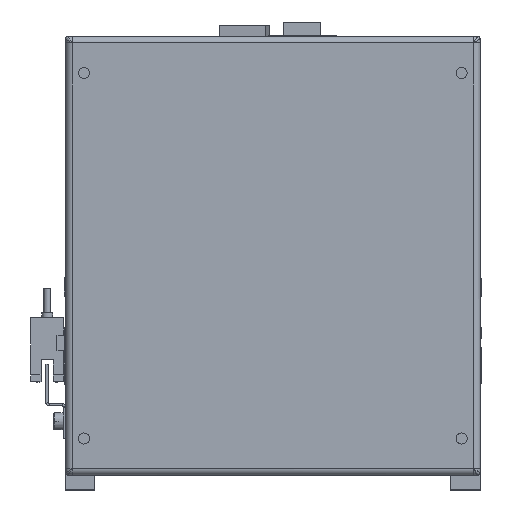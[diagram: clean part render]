
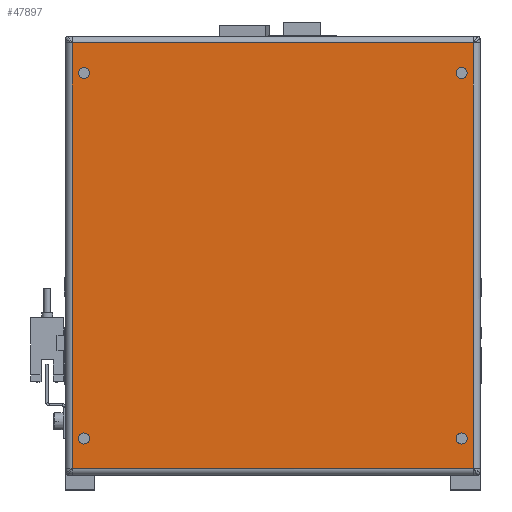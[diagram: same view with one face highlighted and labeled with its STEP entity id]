
A CAD part, front view. The second image highlights one B-rep face of the part: STEP entity #47897.
In plain terms, the highlighted planar face has unit normal (0, -1, 0) as drawn and (0, 0, -1) by its records, which use the part's own axes.
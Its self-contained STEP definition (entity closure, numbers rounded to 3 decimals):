
#370 = AXIS2_PLACEMENT_3D ( 'NONE', #39017, #14363, #43132 ) ;
#1215 = CIRCLE ( 'NONE', #44649, 2.25 ) ;
#1423 = VERTEX_POINT ( 'NONE', #37925 ) ;
#3079 = CARTESIAN_POINT ( 'NONE',  ( -1.016, -29.062, -47. ) ) ;
#3149 = EDGE_LOOP ( 'NONE', ( #45777, #37162 ) ) ;
#3330 = EDGE_CURVE ( 'NONE', #16686, #48722, #40235, .T. ) ;
#3807 = AXIS2_PLACEMENT_3D ( 'NONE', #20513, #28920, #53435 ) ;
#3910 = EDGE_CURVE ( 'NONE', #48722, #23618, #33083, .T. ) ;
#4315 = DIRECTION ( 'NONE',  ( 0., 0., -1. ) ) ;
#5621 = VERTEX_POINT ( 'NONE', #19104 ) ;
#5673 = CARTESIAN_POINT ( 'NONE',  ( 160.247, 129.731, -47. ) ) ;
#6045 = VERTEX_POINT ( 'NONE', #44024 ) ;
#6241 = CARTESIAN_POINT ( 'NONE',  ( 11.247, 129.731, -47. ) ) ;
#6538 = LINE ( 'NONE', #46980, #49026 ) ;
#7420 = EDGE_CURVE ( 'NONE', #21869, #16686, #12286, .T. ) ;
#7558 = ORIENTED_EDGE ( 'NONE', *, *, #32267, .F. ) ;
#9116 = FACE_OUTER_BOUND ( 'NONE', #36082, .T. ) ;
#10445 = DIRECTION ( 'NONE',  ( -1., 0., 0. ) ) ;
#10579 = EDGE_CURVE ( 'NONE', #38118, #22606, #21315, .T. ) ;
#10734 = EDGE_LOOP ( 'NONE', ( #26801, #29784 ) ) ;
#11899 = ORIENTED_EDGE ( 'NONE', *, *, #53029, .F. ) ;
#12180 = CARTESIAN_POINT ( 'NONE',  ( 160.247, -24.269, -47. ) ) ;
#12286 = LINE ( 'NONE', #19415, #43196 ) ;
#14160 = ORIENTED_EDGE ( 'NONE', *, *, #7420, .T. ) ;
#14363 = DIRECTION ( 'NONE',  ( 0., 0., -1. ) ) ;
#14955 = AXIS2_PLACEMENT_3D ( 'NONE', #6241, #26744, #47794 ) ;
#15017 = EDGE_CURVE ( 'NONE', #23618, #21869, #6538, .T. ) ;
#15078 = CARTESIAN_POINT ( 'NONE',  ( 162.497, 129.731, -47. ) ) ;
#15185 = CARTESIAN_POINT ( 'NONE',  ( 172.51, 134.494, -47. ) ) ;
#15321 = VERTEX_POINT ( 'NONE', #37262 ) ;
#15889 = CARTESIAN_POINT ( 'NONE',  ( 172.54, -29.032, -47. ) ) ;
#16074 = CARTESIAN_POINT ( 'NONE',  ( 11.247, 129.731, -47. ) ) ;
#16545 = ORIENTED_EDGE ( 'NONE', *, *, #19606, .F. ) ;
#16686 = VERTEX_POINT ( 'NONE', #47095 ) ;
#16821 = VERTEX_POINT ( 'NONE', #15078 ) ;
#16853 = EDGE_CURVE ( 'NONE', #5621, #16821, #49391, .T. ) ;
#18302 = ORIENTED_EDGE ( 'NONE', *, *, #3330, .T. ) ;
#19024 = VERTEX_POINT ( 'NONE', #45622 ) ;
#19104 = CARTESIAN_POINT ( 'NONE',  ( 157.997, 129.731, -47. ) ) ;
#19191 = AXIS2_PLACEMENT_3D ( 'NONE', #12180, #48889, #28015 ) ;
#19415 = CARTESIAN_POINT ( 'NONE',  ( 172.51, 134.524, -47. ) ) ;
#19606 = EDGE_CURVE ( 'NONE', #1423, #15321, #25687, .T. ) ;
#19654 = DIRECTION ( 'NONE',  ( 0., 1., 0. ) ) ;
#20513 = CARTESIAN_POINT ( 'NONE',  ( 160.247, -24.269, -47. ) ) ;
#21227 = CARTESIAN_POINT ( 'NONE',  ( 162.497, -24.269, -47. ) ) ;
#21268 = DIRECTION ( 'NONE',  ( 0., 0., -1. ) ) ;
#21315 = CIRCLE ( 'NONE', #19191, 2.25 ) ;
#21531 = VECTOR ( 'NONE', #19654, 1000. ) ;
#21869 = VERTEX_POINT ( 'NONE', #15185 ) ;
#22119 = CARTESIAN_POINT ( 'NONE',  ( -1.016, 134.494, -47. ) ) ;
#22500 = CARTESIAN_POINT ( 'NONE',  ( 146.597, 2.271, -47. ) ) ;
#22566 = EDGE_CURVE ( 'NONE', #19024, #6045, #31583, .T. ) ;
#22602 = DIRECTION ( 'NONE',  ( -1., 0., 0. ) ) ;
#22606 = VERTEX_POINT ( 'NONE', #36152 ) ;
#22975 = AXIS2_PLACEMENT_3D ( 'NONE', #22500, #52004, #10445 ) ;
#23618 = VERTEX_POINT ( 'NONE', #22119 ) ;
#24230 = AXIS2_PLACEMENT_3D ( 'NONE', #49031, #36471, #53203 ) ;
#24902 = CARTESIAN_POINT ( 'NONE',  ( -1.016, -29.032, -47. ) ) ;
#25687 = CIRCLE ( 'NONE', #35668, 2.25 ) ;
#26744 = DIRECTION ( 'NONE',  ( 0., 0., -1. ) ) ;
#26801 = ORIENTED_EDGE ( 'NONE', *, *, #16853, .F. ) ;
#27974 = VECTOR ( 'NONE', #49477, 1000. ) ;
#28015 = DIRECTION ( 'NONE',  ( -1., 0., 0. ) ) ;
#28920 = DIRECTION ( 'NONE',  ( 0., 0., -1. ) ) ;
#29784 = ORIENTED_EDGE ( 'NONE', *, *, #44708, .F. ) ;
#30175 = EDGE_CURVE ( 'NONE', #6045, #19024, #52329, .T. ) ;
#31583 = CIRCLE ( 'NONE', #52934, 2.25 ) ;
#31623 = EDGE_LOOP ( 'NONE', ( #7558, #16545 ) ) ;
#32267 = EDGE_CURVE ( 'NONE', #15321, #1423, #50223, .T. ) ;
#33083 = LINE ( 'NONE', #3079, #21531 ) ;
#35668 = AXIS2_PLACEMENT_3D ( 'NONE', #16074, #4315, #44824 ) ;
#35884 = FACE_BOUND ( 'NONE', #3149, .T. ) ;
#36082 = EDGE_LOOP ( 'NONE', ( #18302, #37163, #51235, #14160 ) ) ;
#36152 = CARTESIAN_POINT ( 'NONE',  ( 157.997, -24.269, -47. ) ) ;
#36471 = DIRECTION ( 'NONE',  ( 0., 0., -1. ) ) ;
#37162 = ORIENTED_EDGE ( 'NONE', *, *, #22566, .F. ) ;
#37163 = ORIENTED_EDGE ( 'NONE', *, *, #3910, .T. ) ;
#37262 = CARTESIAN_POINT ( 'NONE',  ( 8.997, 129.731, -47. ) ) ;
#37925 = CARTESIAN_POINT ( 'NONE',  ( 13.497, 129.731, -47. ) ) ;
#38118 = VERTEX_POINT ( 'NONE', #21227 ) ;
#39017 = CARTESIAN_POINT ( 'NONE',  ( 160.247, 129.731, -47. ) ) ;
#40235 = LINE ( 'NONE', #15889, #27974 ) ;
#42289 = FACE_BOUND ( 'NONE', #10734, .T. ) ;
#42630 = PLANE ( 'NONE',  #22975 ) ;
#43091 = DIRECTION ( 'NONE',  ( 0., 0., -1. ) ) ;
#43132 = DIRECTION ( 'NONE',  ( -1., 0., 0. ) ) ;
#43196 = VECTOR ( 'NONE', #52519, 1000. ) ;
#44024 = CARTESIAN_POINT ( 'NONE',  ( 8.997, -24.269, -47. ) ) ;
#44649 = AXIS2_PLACEMENT_3D ( 'NONE', #5673, #43091, #22602 ) ;
#44708 = EDGE_CURVE ( 'NONE', #16821, #5621, #1215, .T. ) ;
#44824 = DIRECTION ( 'NONE',  ( -1., 0., 0. ) ) ;
#45065 = FACE_BOUND ( 'NONE', #31623, .T. ) ;
#45622 = CARTESIAN_POINT ( 'NONE',  ( 13.497, -24.269, -47. ) ) ;
#45689 = DIRECTION ( 'NONE',  ( -1., 0., 0. ) ) ;
#45777 = ORIENTED_EDGE ( 'NONE', *, *, #30175, .F. ) ;
#46079 = CIRCLE ( 'NONE', #3807, 2.25 ) ;
#46607 = DIRECTION ( 'NONE',  ( 1., 0., 0. ) ) ;
#46980 = CARTESIAN_POINT ( 'NONE',  ( -1.046, 134.494, -47. ) ) ;
#47095 = CARTESIAN_POINT ( 'NONE',  ( 172.51, -29.032, -47. ) ) ;
#47781 = ORIENTED_EDGE ( 'NONE', *, *, #10579, .F. ) ;
#47794 = DIRECTION ( 'NONE',  ( -1., 0., 0. ) ) ;
#47897 = ADVANCED_FACE ( 'NONE', ( #35884, #45065, #42289, #52500, #9116 ), #42630, .T. ) ;
#48722 = VERTEX_POINT ( 'NONE', #24902 ) ;
#48889 = DIRECTION ( 'NONE',  ( 0., 0., -1. ) ) ;
#49026 = VECTOR ( 'NONE', #46607, 1000. ) ;
#49031 = CARTESIAN_POINT ( 'NONE',  ( 11.247, -24.269, -47. ) ) ;
#49391 = CIRCLE ( 'NONE', #370, 2.25 ) ;
#49477 = DIRECTION ( 'NONE',  ( -1., 0., 0. ) ) ;
#49836 = CARTESIAN_POINT ( 'NONE',  ( 11.247, -24.269, -47. ) ) ;
#50223 = CIRCLE ( 'NONE', #14955, 2.25 ) ;
#51235 = ORIENTED_EDGE ( 'NONE', *, *, #15017, .T. ) ;
#52004 = DIRECTION ( 'NONE',  ( 0., 0., -1. ) ) ;
#52027 = EDGE_LOOP ( 'NONE', ( #11899, #47781 ) ) ;
#52329 = CIRCLE ( 'NONE', #24230, 2.25 ) ;
#52500 = FACE_BOUND ( 'NONE', #52027, .T. ) ;
#52519 = DIRECTION ( 'NONE',  ( 0., -1., 0. ) ) ;
#52934 = AXIS2_PLACEMENT_3D ( 'NONE', #49836, #21268, #45689 ) ;
#53029 = EDGE_CURVE ( 'NONE', #22606, #38118, #46079, .T. ) ;
#53203 = DIRECTION ( 'NONE',  ( -1., 0., 0. ) ) ;
#53435 = DIRECTION ( 'NONE',  ( -1., 0., 0. ) ) ;
